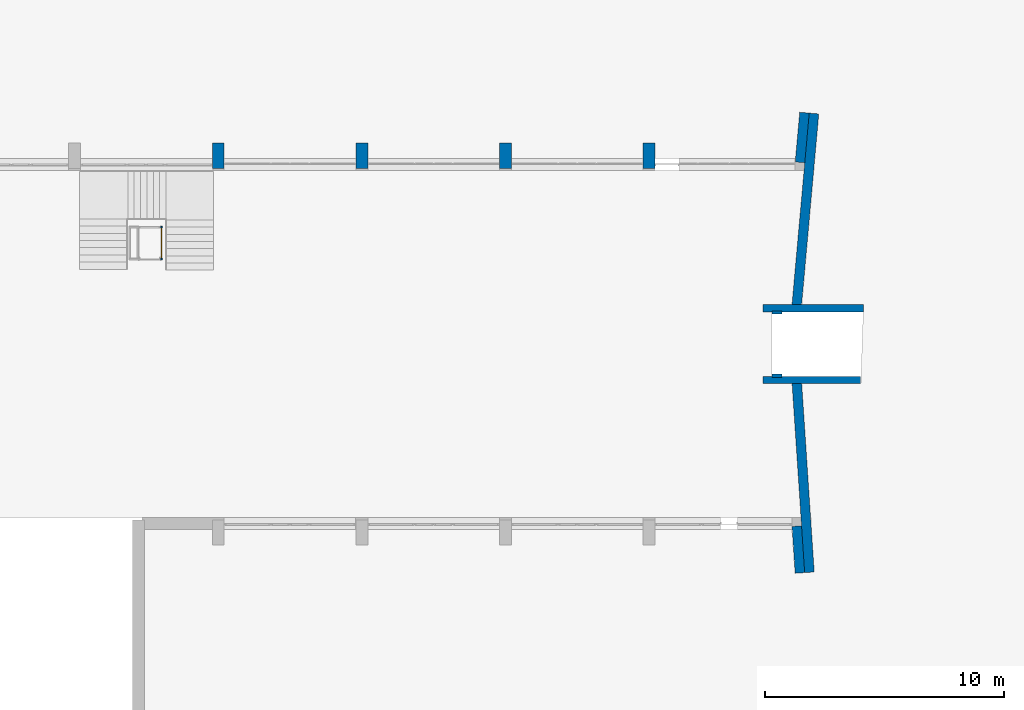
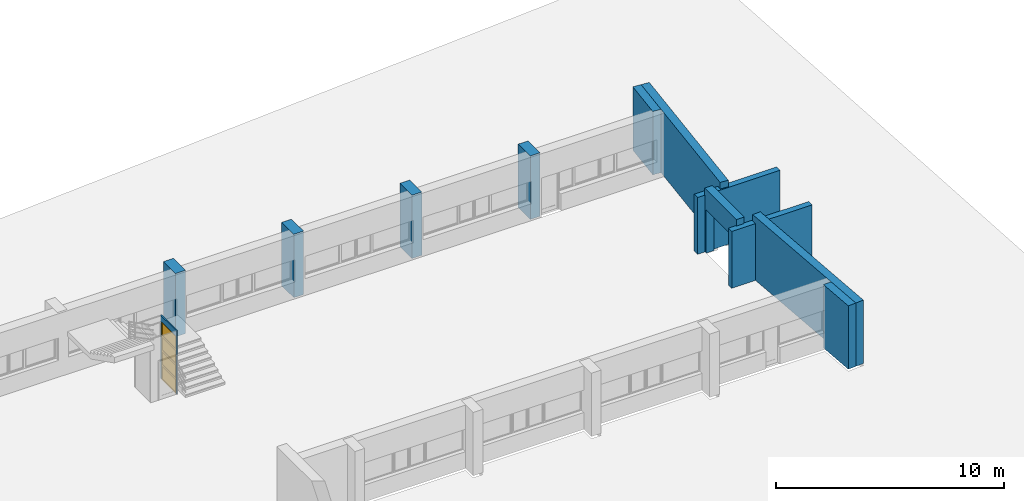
# One storey, part 13 of 36: 12 walls, 1 window, 2 openings.
"""IFC2X3 building model written with IfcOpenShell, lengths in millimetres."""

from ifc_helpers import new_model, entity, si_unit, converted_unit, money_unit, direction, frame, origin_with_axes, place, context, subcontext, project, spatial, polyline, outline, extrude, open_shell, faceted_brep, surface_model, source, transform, mapped, material, material_list, layer, layer_set, layer_usage, type_object, element, fill, save


model = new_model("IFC2X3")

# Units and contexts
model_context = context("Model", 3, precision=1e-05, world=origin_with_axes(), true_north=direction((0.0, 1.0)))
body_context = subcontext(model_context, "Body", "Model", "MODEL_VIEW")
ifc_project = project(units=[si_unit("LENGTHUNIT", "METRE", prefix="MILLI"), si_unit("AREAUNIT", "SQUARE_METRE"), si_unit("VOLUMEUNIT", "CUBIC_METRE"), converted_unit("PLANEANGLEUNIT", "DEGREE", entity("IfcPlaneAngleMeasure", 0.0174532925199), si_unit("PLANEANGLEUNIT", "RADIAN"), dimensions=[0, 0, 0, 0, 0, 0, 0]), si_unit("SOLIDANGLEUNIT", "STERADIAN"), money_unit("USD"), converted_unit("TIMEUNIT", "Year", entity("IfcTimeMeasure", 31556926.0), si_unit("TIMEUNIT", "SECOND"), dimensions=[0, 0, 0, 0, 0, 0, 0]), si_unit("MASSUNIT", "GRAM"), si_unit("THERMODYNAMICTEMPERATUREUNIT", "DEGREE_CELSIUS"), si_unit("LUMINOUSINTENSITYUNIT", "LUMEN")], contexts=[model_context])

# Site, building, storey
site_placement = place(None, origin_with_axes())
site = spatial("IfcSite", under=ifc_project, at=site_placement, Name="Site", CompositionType="ELEMENT")
building_placement = place(site_placement, origin_with_axes())
building = spatial("IfcBuilding", under=site, at=building_placement, Name="Building", CompositionType="ELEMENT")
storey_placement = place(building_placement, frame((0.0, 0.0, -3400.0), z_axis=(0.0, 0.0, 1.0), x_axis=(1.0, 0.0, 0.0)))
storey = spatial("IfcBuildingStorey", under=building, at=storey_placement, Name="1KORRUS", CompositionType="ELEMENT", Elevation=-3400.0)

# Wall
ifc_material_1 = material(Name="Olemasolevad seinad tellis, uus viimistlus")
ifc_layer_1 = layer(ifc_material_1, 400.0, ventilated="UNKNOWN")
ifc_layer_set_1 = layer_set([ifc_layer_1], Name="Olemasolevad seinad tellis, uus viimistlus 400")
ifc_layer_usage_1 = layer_usage(ifc_layer_set_1, "AXIS2", "POSITIVE", -400.0)
wall_type_1 = type_object("IfcWallType", Name="Olemasolevad seinad tellis, uus viimistlus 400", PredefinedType="NOTDEFINED")
wall_1_placement = place(storey_placement, frame((17976.4243036, -4776.56621795, 0.0), z_axis=(0.0, 0.0, 1.0), x_axis=(0.0895981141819, 0.995978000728, 0.0)))
element("IfcWallStandardCase", 1, at=wall_1_placement, inside=storey, type_object=wall_type_1, material=ifc_layer_usage_1, Name="VS1", ObjectType="VS1", context=body_context, shape_type="SweptSolid", body=[
    extrude(outline(polyline([(0.0, -400.0), (2088.20851153, -400.0), (2088.20851153, 0.0), (0.0, 0.0), (0.0, -400.0)])), origin_with_axes(), (0.0, 0.0, 1.0), 3400.0),
])

# Wall, opening
ifc_layer_usage_2 = layer_usage(ifc_layer_set_1, "AXIS2", "POSITIVE", 0.0)
wall_2_placement = place(storey_placement, frame((17015.1799697, -10997.6526712, 0.0), z_axis=(0.0, 0.0, 1.0), x_axis=(0.0, -1.0, 0.0)))
wall_2 = element("IfcWallStandardCase", 2, at=wall_2_placement, inside=storey, type_object=wall_type_1, material=ifc_layer_usage_2, Name="VS1", ObjectType="OLEMASOLEV VÄLISSEIN", context=body_context, shape_type="SweptSolid", body=[
    extrude(outline(polyline([(0.0, 0.0), (2789.68489615, 0.0), (2789.68489615, 400.0), (0.0, 400.0), (0.0, 0.0)])), origin_with_axes(), (0.0, 0.0, 1.0), 3400.0),
])
opening_1_placement = place(wall_2_placement, frame((1391.58722821, 0.0, 0.0), z_axis=(0.0, 0.0, 1.0), x_axis=(1.0, 0.0, 0.0)))
element("IfcOpeningElement", 3, at=opening_1_placement, cuts=wall_2, Name="DOO - 001", context=body_context, shape_type="SweptSolid", body=[
    extrude(outline(polyline([(-1250.0, 0.0), (-1250.0, -2300.0), (1250.0, -2300.0), (1250.0, 0.0), (-1250.0, 0.0)])), frame((0.0, 300.0, 0.0), z_axis=(0.0, 1.0, 0.0), x_axis=(1.0, 0.0, 0.0)), (0.0, 0.0, 1.0), 400.0),
    extrude(outline(polyline([(-1250.0, 2300.0), (-1250.0, 0.0), (1250.0, 0.0), (1250.0, 2300.0), (-1250.0, 2300.0)])), frame((0.0, 300.0, 0.0), z_axis=(0.0, -1.0, 0.0), x_axis=(1.0, 0.0, 0.0)), (0.0, 0.0, 1.0), 400.0),
])

# Walls
ifc_layer_usage_3 = layer_usage(ifc_layer_set_1, "AXIS2", "POSITIVE", 0.0)
wall_3_placement = place(storey_placement, frame((17841.3876618, -20010.8935182, 0.0), z_axis=(0.0, 0.0, 1.0), x_axis=(0.0663534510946, -0.997796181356, 0.0)))
element("IfcWallStandardCase", 4, at=wall_3_placement, inside=storey, type_object=wall_type_1, material=ifc_layer_usage_3, Name="VS1", ObjectType="VS1", context=body_context, shape_type="SweptSolid", body=[
    extrude(outline(polyline([(0.0, 0.0), (1962.46339605, 0.0), (1962.46339605, 400.0), (0.0, 400.0), (0.0, 0.0)])), origin_with_axes(), (0.0, 0.0, 1.0), 3400.0),
])
ifc_layer_usage_4 = layer_usage(ifc_layer_set_1, "AXIS2", "POSITIVE", -400.0)
wall_4_placement = place(storey_placement, frame((18229.2485928, -13787.3375674, 0.0), z_axis=(0.0, 0.0, 1.0), x_axis=(0.0663534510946, -0.997796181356, 0.0)))
element("IfcWallStandardCase", 5, at=wall_4_placement, inside=storey, type_object=wall_type_1, material=ifc_layer_usage_4, Name="VS1", ObjectType="VS1", context=body_context, shape_type="SweptSolid", body=[
    extrude(outline(polyline([(0.0, -400.0), (8146.79169702, -400.0), (8146.79169702, 0.0), (0.0, 0.0), (0.0, -400.0)])), origin_with_axes(), (0.0, 0.0, 1.0), 3400.0),
])
ifc_layer_usage_5 = layer_usage(ifc_layer_set_1, "AXIS2", "POSITIVE", 0.0)
wall_5_placement = place(storey_placement, frame((18220.0063762, -10997.6526712, 0.0), z_axis=(0.0, 0.0, 1.0), x_axis=(0.0895981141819, 0.995978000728, 0.0)))
element("IfcWallStandardCase", 6, at=wall_5_placement, inside=storey, type_object=wall_type_1, material=ifc_layer_usage_5, Name="VS1", ObjectType="VS1", context=body_context, shape_type="SweptSolid", body=[
    extrude(outline(polyline([(0.0, 0.0), (8262.44926526, 0.0), (8262.44926526, 400.0), (0.0, 400.0), (0.0, 0.0)])), origin_with_axes(), (0.0, 0.0, 1.0), 3400.0),
])
ifc_layer_2 = layer(ifc_material_1, 300.0, ventilated="UNKNOWN")
ifc_layer_set_2 = layer_set([ifc_layer_2], Name="Olemasolevad seinad tellis, uus viimistlus 300")
ifc_layer_usage_6 = layer_usage(ifc_layer_set_2, "AXIS2", "POSITIVE", 0.0)
wall_type_2 = type_object("IfcWallType", Name="Olemasolevad seinad tellis, uus viimistlus 300", PredefinedType="NOTDEFINED")
wall_6_placement = place(storey_placement, frame((20713.922287, -13739.2398994, 0.0), z_axis=(0.0, 0.0, 1.0), x_axis=(-1.0, 0.0, 0.0)))
element("IfcWallStandardCase", 7, at=wall_6_placement, inside=storey, type_object=wall_type_2, material=ifc_layer_usage_6, Name="VS1", ObjectType="OLEMASOLEV VÄLISSEIN", context=body_context, shape_type="SweptSolid", body=[
    extrude(outline(polyline([(0.0, 0.0), (4075.77793551, 0.0), (4075.77793551, 300.0), (0.0, 300.0), (0.0, 0.0)])), origin_with_axes(), (0.0, 0.0, 1.0), 3050.0),
])
ifc_layer_usage_7 = layer_usage(ifc_layer_set_2, "AXIS2", "POSITIVE", -300.0)
wall_7_placement = place(storey_placement, frame((20826.9209515, -11039.6041088, 0.0), z_axis=(0.0, 0.0, 1.0), x_axis=(-1.0, 0.0, 0.0)))
element("IfcWallStandardCase", 8, at=wall_7_placement, inside=storey, type_object=wall_type_2, material=ifc_layer_usage_7, Name="VS1", ObjectType="OLEMASOLEV VÄLISSEIN", context=body_context, shape_type="SweptSolid", body=[
    extrude(outline(polyline([(0.0, -300.0), (4188.77660001, -300.0), (4188.77660001, 0.0), (0.0, 0.0), (0.0, -300.0)])), origin_with_axes(), (0.0, 0.0, 1.0), 3050.0),
])
ifc_layer_3 = layer(ifc_material_1, 500.0, ventilated="UNKNOWN")
ifc_layer_set_3 = layer_set([ifc_layer_3], Name="Olemasolevad seinad tellis, uus viimistlus 500")
ifc_layer_usage_8 = layer_usage(ifc_layer_set_3, "AXIS2", "POSITIVE", -100.0)
wall_type_3 = type_object("IfcWallType", Name="Olemasolevad seinad tellis, uus viimistlus 500", PredefinedType="NOTDEFINED")
wall_8_placement = place(storey_placement, frame((-5990.29670331, -5039.6041088, 0.0), z_axis=(0.0, 0.0, 1.0), x_axis=(0.0, 1.0, 0.0)))
element("IfcWallStandardCase", 9, at=wall_8_placement, inside=storey, type_object=wall_type_3, material=ifc_layer_usage_8, Name="VS1", ObjectType="VS1", context=body_context, shape_type="SweptSolid", body=[
    extrude(outline(polyline([(0.0, -100.0), (1057.40204125, -100.0), (1057.40204125, 400.0), (0.0, 400.0), (0.0, -100.0)])), origin_with_axes(), (0.0, 0.0, 1.0), 3400.0),
])
ifc_layer_usage_9 = layer_usage(ifc_layer_set_3, "AXIS2", "POSITIVE", -100.0)
wall_9_placement = place(storey_placement, frame((6009.70329669, -5039.6041088, 0.0), z_axis=(0.0, 0.0, 1.0), x_axis=(0.0, 1.0, 0.0)))
element("IfcWallStandardCase", 10, at=wall_9_placement, inside=storey, type_object=wall_type_3, material=ifc_layer_usage_9, Name="VS1", ObjectType="VS1", context=body_context, shape_type="SweptSolid", body=[
    extrude(outline(polyline([(0.0, -100.0), (1057.40204125, -100.0), (1057.40204125, 400.0), (0.0, 400.0), (0.0, -100.0)])), origin_with_axes(), (0.0, 0.0, 1.0), 3400.0),
])
ifc_layer_usage_10 = layer_usage(ifc_layer_set_3, "AXIS2", "POSITIVE", -100.0)
wall_10_placement = place(storey_placement, frame((12009.7032967, -5039.6041088, 0.0), z_axis=(0.0, 0.0, 1.0), x_axis=(0.0, 1.0, 0.0)))
element("IfcWallStandardCase", 11, at=wall_10_placement, inside=storey, type_object=wall_type_3, material=ifc_layer_usage_10, Name="VS1", ObjectType="VS1", context=body_context, shape_type="SweptSolid", body=[
    extrude(outline(polyline([(0.0, -100.0), (1057.40204125, -100.0), (1057.40204125, 400.0), (0.0, 400.0), (0.0, -100.0)])), origin_with_axes(), (0.0, 0.0, 1.0), 3400.0),
])
ifc_layer_usage_11 = layer_usage(ifc_layer_set_3, "AXIS2", "POSITIVE", -100.0)
wall_11_placement = place(storey_placement, frame((9.70329668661, -5039.6041088, 0.0), z_axis=(0.0, 0.0, 1.0), x_axis=(0.0, 1.0, 0.0)))
element("IfcWallStandardCase", 12, at=wall_11_placement, inside=storey, type_object=wall_type_3, material=ifc_layer_usage_11, Name="VS1", ObjectType="VS1", context=body_context, shape_type="SweptSolid", body=[
    extrude(outline(polyline([(0.0, -100.0), (1057.40204125, -100.0), (1057.40204125, 400.0), (0.0, 400.0), (0.0, -100.0)])), origin_with_axes(), (0.0, 0.0, 1.0), 3400.0),
])

# Wall, opening, window
ifc_material_2 = material(Name="Terasprofiil")
ifc_layer_4 = layer(ifc_material_2, 60.0, ventilated="UNKNOWN")
ifc_layer_set_4 = layer_set([ifc_layer_4], Name="Terasprofiil 60")
ifc_layer_usage_12 = layer_usage(ifc_layer_set_4, "AXIS2", "POSITIVE", -60.0)
wall_type_4 = type_object("IfcWallType", Name="Terasprofiil 60", PredefinedType="NOTDEFINED")
wall_12_placement = place(storey_placement, frame((-8491.93119318, -7470.64352695, 0.0), z_axis=(0.0, 0.0, 1.0), x_axis=(0.0, -1.0, 0.0)))
wall_12 = element("IfcWallStandardCase", 13, at=wall_12_placement, inside=storey, type_object=wall_type_4, material=ifc_layer_usage_12, Name="LS1", ObjectType="Lifti sein", context=body_context, shape_type="SweptSolid", body=[
    extrude(outline(polyline([(0.0, -60.0), (1400.0, -60.0), (1400.0, 0.0), (0.0, 0.0), (0.0, -60.0)])), origin_with_axes(), (0.0, 0.0, 1.0), 3400.0),
])
opening_2_placement = place(wall_12_placement, frame((700.0, 0.0, 0.0), z_axis=(0.0, 0.0, 1.0), x_axis=(1.0, 0.0, 0.0)))
opening_2 = element("IfcOpeningElement", 14, at=opening_2_placement, cuts=wall_12, Name="Lifti klaassein", context=body_context, shape_type="SweptSolid", body=[
    extrude(outline(polyline([(640.0, -3100.0), (640.0, 0.0), (-640.0, 0.0), (-640.0, -3100.0), (640.0, -3100.0)])), frame((0.0, -60.0, 0.0), z_axis=(0.0, 1.0, 0.0), x_axis=(1.0, 0.0, 0.0)), (0.0, 0.0, 1.0), 180.0),
])
ifc_material_3 = material(Name="Background")
ifc_material_list = material_list([ifc_material_3])
window_style = type_object("IfcWindowStyle", Name="Vertical Multi-Sash Window 19", ConstructionType="NOTDEFINED", OperationType="USERDEFINED", ParameterTakesPrecedence=False, Sizeable=False)
shared_shape = source(origin_with_axes(), body_context, "Body", "SurfaceModel", [
    faceted_brep([(590.0, -50.0, 3050.0), (640.0, -50.0, 3050.0), (640.0, 0.0, 3050.0), (590.0, 0.0, 3050.0), (590.0, -50.0, 2375.0), (590.0, -50.0, 2275.0), (590.0, -50.0, 1600.0), (590.0, -50.0, 1500.0), (590.0, -50.0, 825.0), (590.0, -50.0, 725.0), (590.0, -50.0, 50.0), (640.0, -50.0, 50.0), (640.0, 0.0, 50.0), (590.0, 0.0, 50.0), (590.0, 0.0, 725.0), (590.0, 0.0, 825.0), (590.0, 0.0, 1500.0), (590.0, 0.0, 1600.0), (590.0, 0.0, 2275.0), (590.0, 0.0, 2375.0)], [[[0, 1, 2, 3]], [[0, 4, 5, 6, 7, 8, 9, 10, 11, 1]], [[1, 11, 12, 2]], [[3, 2, 12, 13, 14, 15, 16, 17, 18, 19]], [[4, 0, 3, 19]], [[5, 4, 19, 18]], [[6, 5, 18, 17]], [[7, 6, 17, 16]], [[8, 7, 16, 15]], [[9, 8, 15, 14]], [[10, 9, 14, 13]], [[11, 10, 13, 12]]]),
    faceted_brep([(-590.0, -50.0, 2375.0), (-590.0, -50.0, 2275.0), (-590.0, 0.0, 2275.0), (-590.0, 0.0, 2375.0), (-590.0, -50.0, 3050.0), (-640.0, -50.0, 3050.0), (-640.0, -50.0, 50.0), (-590.0, -50.0, 50.0), (-590.0, -50.0, 725.0), (-590.0, -50.0, 825.0), (-590.0, -50.0, 1500.0), (-590.0, -50.0, 1600.0), (-590.0, 0.0, 1600.0), (-590.0, 0.0, 1500.0), (-590.0, 0.0, 825.0), (-590.0, 0.0, 725.0), (-590.0, 0.0, 50.0), (-640.0, 0.0, 50.0), (-640.0, 0.0, 3050.0), (-590.0, 0.0, 3050.0)], [[[0, 1, 2, 3]], [[0, 4, 5, 6, 7, 8, 9, 10, 11, 1]], [[1, 11, 12, 2]], [[3, 2, 12, 13, 14, 15, 16, 17, 18, 19]], [[4, 0, 3, 19]], [[5, 4, 19, 18]], [[6, 5, 18, 17]], [[7, 6, 17, 16]], [[8, 7, 16, 15]], [[9, 8, 15, 14]], [[10, 9, 14, 13]], [[11, 10, 13, 12]]]),
    faceted_brep([(-590.0, -50.0, 3050.0), (-640.0, -50.0, 3050.0), (-640.0, 0.0, 3050.0), (-590.0, 0.0, 3050.0), (590.0, -50.0, 3050.0), (640.0, -50.0, 3050.0), (640.0, -50.0, 3100.0), (-640.0, -50.0, 3100.0), (-640.0, 0.0, 3100.0), (640.0, 0.0, 3100.0), (640.0, 0.0, 3050.0), (590.0, 0.0, 3050.0)], [[[0, 1, 2, 3]], [[0, 4, 5, 6, 7, 1]], [[1, 7, 8, 2]], [[3, 2, 8, 9, 10, 11]], [[4, 0, 3, 11]], [[5, 4, 11, 10]], [[6, 5, 10, 9]], [[7, 6, 9, 8]]]),
    faceted_brep([(590.0, -50.0, 50.0), (640.0, -50.0, 50.0), (640.0, 0.0, 50.0), (590.0, 0.0, 50.0), (-590.0, -50.0, 50.0), (-640.0, -50.0, 50.0), (-640.0, -50.0, 0.0), (640.0, -50.0, 0.0), (640.0, 0.0, 0.0), (-640.0, 0.0, 0.0), (-640.0, 0.0, 50.0), (-590.0, 0.0, 50.0)], [[[0, 1, 2, 3]], [[0, 4, 5, 6, 7, 1]], [[1, 7, 8, 2]], [[3, 2, 8, 9, 10, 11]], [[4, 0, 3, 11]], [[5, 4, 11, 10]], [[6, 5, 10, 9]], [[7, 6, 9, 8]]]),
    faceted_brep([(-590.0, -50.0, 825.0), (590.0, -50.0, 825.0), (590.0, 0.0, 825.0), (-590.0, 0.0, 825.0), (-590.0, -50.0, 725.0), (590.0, -50.0, 725.0), (590.0, 0.0, 725.0), (-590.0, 0.0, 725.0)], [[[0, 1, 2, 3]], [[0, 4, 5, 1]], [[1, 5, 6, 2]], [[3, 2, 6, 7]], [[4, 0, 3, 7]], [[5, 4, 7, 6]]]),
    faceted_brep([(-590.0, -50.0, 1600.0), (590.0, -50.0, 1600.0), (590.0, 0.0, 1600.0), (-590.0, 0.0, 1600.0), (-590.0, -50.0, 1500.0), (590.0, -50.0, 1500.0), (590.0, 0.0, 1500.0), (-590.0, 0.0, 1500.0)], [[[0, 1, 2, 3]], [[0, 4, 5, 1]], [[1, 5, 6, 2]], [[3, 2, 6, 7]], [[4, 0, 3, 7]], [[5, 4, 7, 6]]]),
    faceted_brep([(-590.0, -50.0, 2375.0), (590.0, -50.0, 2375.0), (590.0, 0.0, 2375.0), (-590.0, 0.0, 2375.0), (-590.0, -50.0, 2275.0), (590.0, -50.0, 2275.0), (590.0, 0.0, 2275.0), (-590.0, 0.0, 2275.0)], [[[0, 1, 2, 3]], [[0, 4, 5, 1]], [[1, 5, 6, 2]], [[3, 2, 6, 7]], [[4, 0, 3, 7]], [[5, 4, 7, 6]]]),
    surface_model("IfcShellBasedSurfaceModel", [(590.0, -35.0, 50.0), (590.0, -35.0, 725.0), (-590.0, -35.0, 725.0), (-590.0, -35.0, 50.0)], [open_shell([[[0, 1, 2, 3]]])]),
    surface_model("IfcShellBasedSurfaceModel", [(590.0, -15.0, 50.0), (-590.0, -15.0, 50.0), (-590.0, -15.0, 725.0), (590.0, -15.0, 725.0)], [open_shell([[[0, 1, 2, 3]]])]),
    surface_model("IfcShellBasedSurfaceModel", [(590.0, -35.0, 825.0), (590.0, -35.0, 1500.0), (-590.0, -35.0, 1500.0), (-590.0, -35.0, 825.0)], [open_shell([[[0, 1, 2, 3]]])]),
    surface_model("IfcShellBasedSurfaceModel", [(590.0, -15.0, 825.0), (-590.0, -15.0, 825.0), (-590.0, -15.0, 1500.0), (590.0, -15.0, 1500.0)], [open_shell([[[0, 1, 2, 3]]])]),
    surface_model("IfcShellBasedSurfaceModel", [(590.0, -35.0, 1600.0), (590.0, -35.0, 2275.0), (-590.0, -35.0, 2275.0), (-590.0, -35.0, 1600.0)], [open_shell([[[0, 1, 2, 3]]])]),
    surface_model("IfcShellBasedSurfaceModel", [(590.0, -15.0, 1600.0), (-590.0, -15.0, 1600.0), (-590.0, -15.0, 2275.0), (590.0, -15.0, 2275.0)], [open_shell([[[0, 1, 2, 3]]])]),
    surface_model("IfcShellBasedSurfaceModel", [(590.0, -35.0, 2375.0), (590.0, -35.0, 3050.0), (-590.0, -35.0, 3050.0), (-590.0, -35.0, 2375.0)], [open_shell([[[0, 1, 2, 3]]])]),
    surface_model("IfcShellBasedSurfaceModel", [(590.0, -15.0, 2375.0), (-590.0, -15.0, 2375.0), (-590.0, -15.0, 3050.0), (590.0, -15.0, 3050.0)], [open_shell([[[0, 1, 2, 3]]])]),
])
window_placement = place(opening_2_placement, frame((-640.0, 0.0, 0.0), z_axis=(0.0, 0.0, 1.0), x_axis=(1.0, 0.0, 0.0)))
window = element("IfcWindow", 15, at=window_placement, inside=storey, type_object=window_style, material=ifc_material_list, Name="Lifti klaassein", ObjectType="WINDOW", OverallHeight=3100.0, OverallWidth=1280.0, context=body_context, shape_type="MappedRepresentation", body=[
    mapped(shared_shape, transform((640.0, 0.0, 0.0))),
])
fill(opening_2, window)

save(model, "model.ifc")
